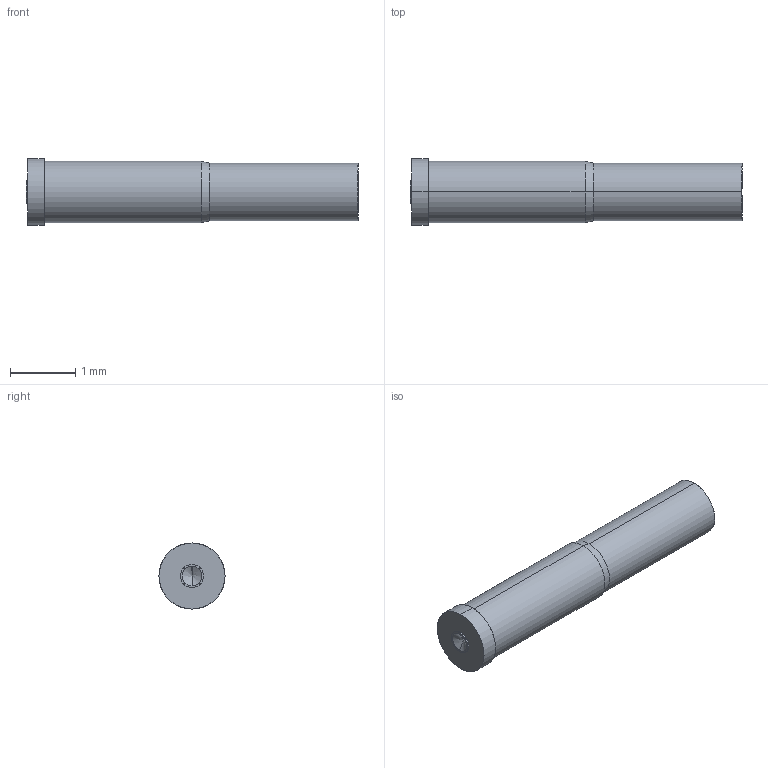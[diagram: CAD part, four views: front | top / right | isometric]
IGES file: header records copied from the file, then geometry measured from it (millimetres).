
Start section: SolidWorks IGES file using analytic representation for surfaces
Global section: file name: O:\PYLON\IGES FILES\A-S\A-S-V FULL.IGS; native system: SolidWorks 2015; preprocessor: SolidWorks 2015; author: kgolden; date: 171023.151319; units: inch
Bounding box: 5.11 x 1.02 x 1.02 mm (x, y, z)
Surface area: 18.6 mm2 (no closed solid volume)
Topology: 0 solids, 0 shells, 19 faces, 200 edges, 198 vertices
Faces by surface type: revolution 14, bspline 5
